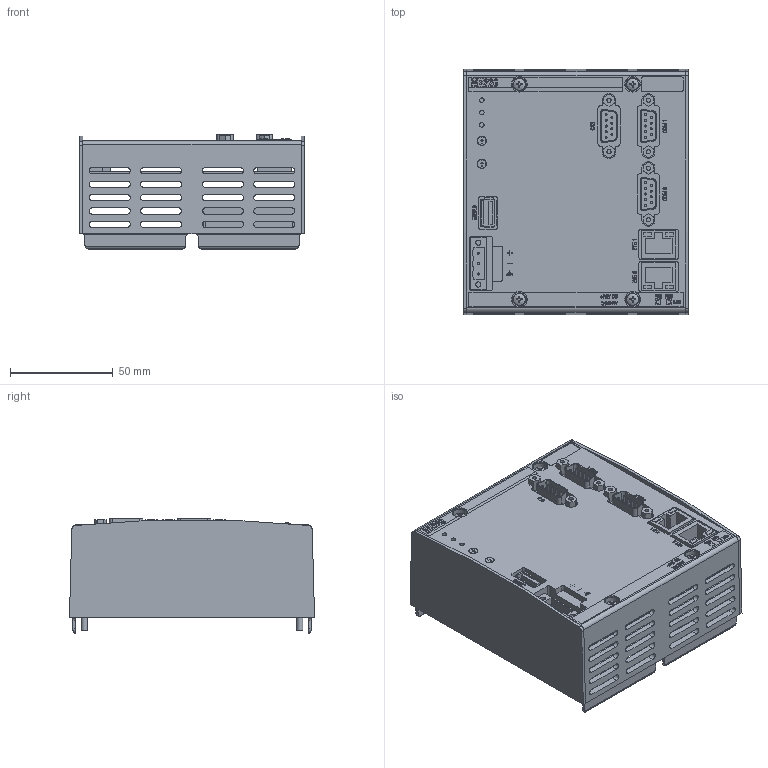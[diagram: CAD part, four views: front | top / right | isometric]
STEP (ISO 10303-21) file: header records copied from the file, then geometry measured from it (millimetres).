
FILE_DESCRIPTION(/* description */ ('MX220'),/* implementation_level */ '2;1');
FILE_NAME(/* name */ 'P:\Others\ePLAN_Library\Product\Daten\M200\Vorläufige Modelle\MX220_00031490-00\MX220.stp',/* time_stamp */ '2025-05-27T15:59:36+02:00',/* author */ ('schwendm'),/* organization */ ('2025 Bachmann electronic GmbH'),/* preprocessor_version */ 'ST-DEVELOPER v18.1',/* originating_system */ 'Autodesk Inventor 2022',/* authorisation */ '-');
FILE_SCHEMA (('AUTOMOTIVE_DESIGN { 1 0 10303 214 3 1 1 }'));
Products named in the file (1): 00035775
Bounding box: 109 x 119 x 55.45 mm (x, y, z)
Volume: 148724 mm3; surface area: 137207.2 mm2
Topology: 19 solids, 19 shells, 1875 faces, 5059 edges, 3366 vertices
Faces by surface type: plane 1158, bspline 396, cylinder 301, cone 16, sphere 4
Full cylindrical faces by diameter (mm): 1 x30, 2 x6, 2.2 x3, 2.32 x4, 2.46 x4, 2.5 x2, 3 x4, 3.5 x4, 4.1 x2, 4.5 x2, 6.6 x4, 7.6 x4
Entity records: 61943 total; most frequent: CARTESIAN_POINT 14659, ORIENTED_EDGE 10110, DIRECTION 7878, EDGE_CURVE 5055, LINE 3522, VECTOR 3522, VERTEX_POINT 3366, AXIS2_PLACEMENT_3D 2178
